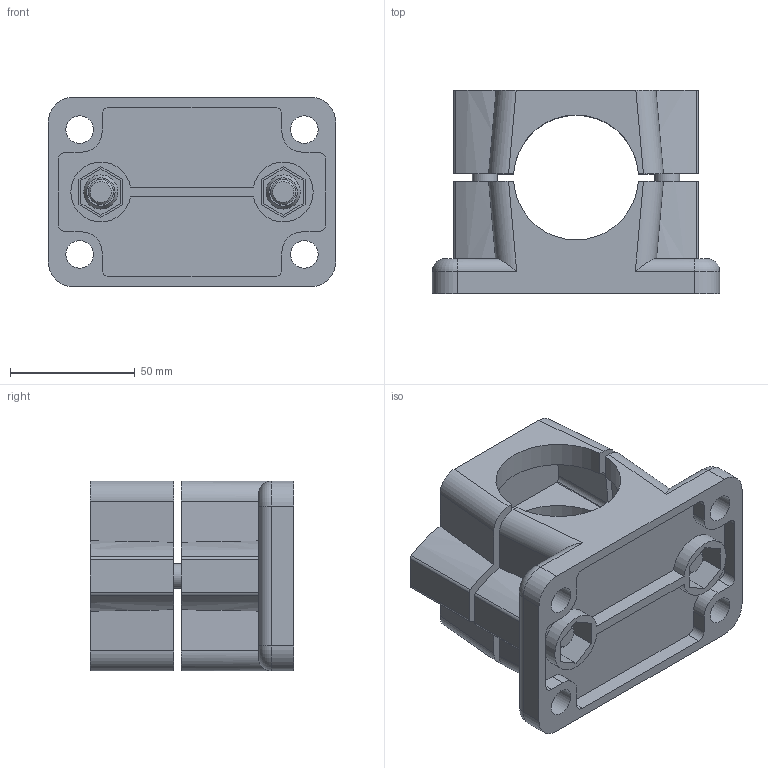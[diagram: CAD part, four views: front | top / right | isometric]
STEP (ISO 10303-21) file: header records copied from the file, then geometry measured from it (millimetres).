
FILE_DESCRIPTION( ( 'STEP AP203' ), '1' );
FILE_NAME( 'C:/Temp/Ganter_Step_05_03_2020/data/3_7/147/Flanged connector clamp GN 147-B50-2-SW.stp', '2020-03-12T14:20:39', ( 'License CC BY-ND 4.0' ), ( 'CADENAS' ), ' ', 'PARTsolutions', ' ' );
FILE_SCHEMA( ( 'CONFIG_CONTROL_DESIGN' ) );
Length unit declared in the file: millimetre
Products named in the file (1): _Flanged connector clamp GN 147-B50-2-SW
Bounding box: 115 x 81.5 x 76 mm (x, y, z)
Volume: 224065.9 mm3; surface area: 79106.3 mm2
Topology: 1 solids, 1 shells, 224 faces, 598 edges, 398 vertices
Faces by surface type: plane 125, cylinder 89, torus 6, cone 4
Full cylindrical faces by diameter (mm): 10 x4, 10.5 x4, 11 x4, 16 x2
Entity records: 6970 total; most frequent: CARTESIAN_POINT 1265, DIRECTION 1208, ORIENTED_EDGE 1136, EDGE_CURVE 568, AXIS2_PLACEMENT_3D 419, VERTEX_POINT 388, LINE 370, VECTOR 370
